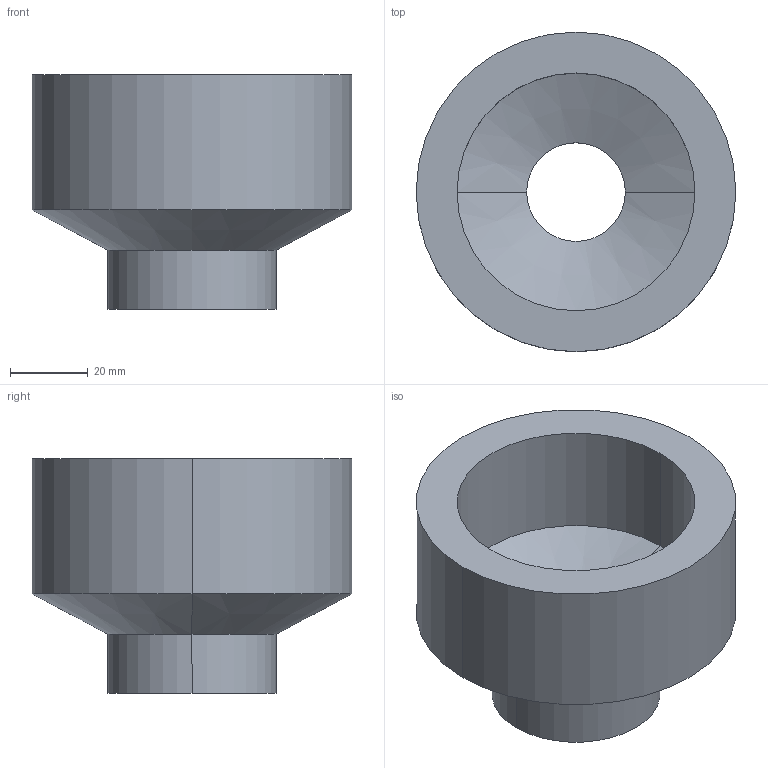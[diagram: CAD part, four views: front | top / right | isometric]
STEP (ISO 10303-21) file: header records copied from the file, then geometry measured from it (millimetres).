
FILE_DESCRIPTION (( 'STEP AP203' ), '1' );
FILE_NAME ('PMR13 FADO.STEP', '2022-08-23T10:41:49', ( '' ), ( '' ), 'SwSTEP 2.0', 'SolidWorks 2021', '' );
FILE_SCHEMA (( 'CONFIG_CONTROL_DESIGN' ));
Length unit declared in the file: millimetre
Products named in the file (1): PMR13 FADO
Bounding box: 82 x 82 x 60.2 mm (x, y, z)
Volume: 124774.8 mm3; surface area: 29096.4 mm2
Topology: 1 solids, 1 shells, 17 faces, 34 edges, 20 vertices
Faces by surface type: cylinder 10, cone 4, plane 3
Entity records: 525 total; most frequent: DIRECTION 90, CARTESIAN_POINT 72, ORIENTED_EDGE 68, AXIS2_PLACEMENT_3D 38, EDGE_CURVE 34, VERTEX_POINT 20, CIRCLE 20, EDGE_LOOP 20
